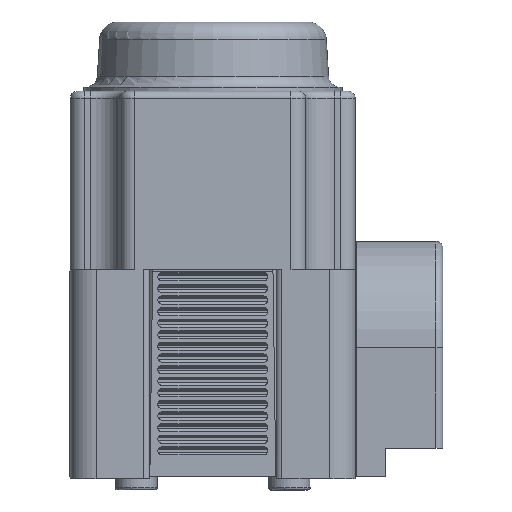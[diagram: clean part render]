
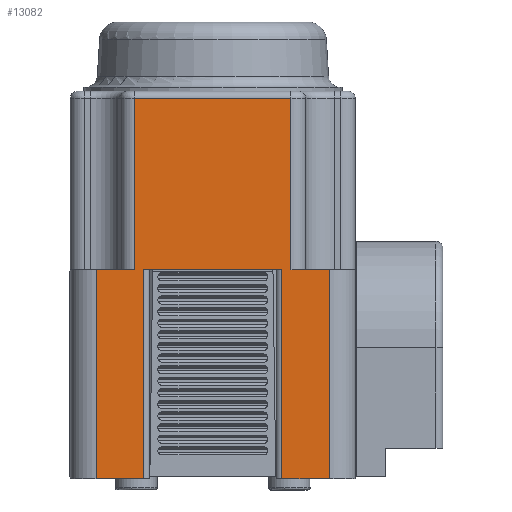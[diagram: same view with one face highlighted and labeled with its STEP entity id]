
A CAD part, left-side view. The second image highlights one B-rep face of the part: STEP entity #13082.
In plain terms, the highlighted planar face has unit normal (-1, 0, 0).
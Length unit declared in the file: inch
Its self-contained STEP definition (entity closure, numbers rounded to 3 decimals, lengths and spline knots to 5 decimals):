
#520=PLANE('',#14547);
#1447=FACE_OUTER_BOUND('',#2239,.T.);
#2239=EDGE_LOOP('',(#11236,#11237,#11238,#11239,#11240,#11241,#11242,#11243,
#11244,#11245,#11246,#11247));
#3691=LINE('',#25581,#4515);
#3704=LINE('',#25651,#4528);
#3820=LINE('',#27224,#4644);
#3837=LINE('',#27282,#4661);
#3838=LINE('',#27286,#4662);
#3841=LINE('',#27305,#4665);
#3854=LINE('',#27381,#4678);
#3855=LINE('',#27385,#4679);
#3856=LINE('',#27386,#4680);
#3857=LINE('',#27388,#4681);
#3858=LINE('',#27390,#4682);
#3859=LINE('',#27391,#4683);
#4515=VECTOR('',#17648,0.3937);
#4528=VECTOR('',#17731,0.3937);
#4644=VECTOR('',#18041,0.3937);
#4661=VECTOR('',#18110,0.3937);
#4662=VECTOR('',#18115,0.3937);
#4665=VECTOR('',#18136,0.3937);
#4678=VECTOR('',#18237,0.3937);
#4679=VECTOR('',#18242,0.3937);
#4680=VECTOR('',#18243,0.3937);
#4681=VECTOR('',#18244,0.3937);
#4682=VECTOR('',#18245,0.3937);
#4683=VECTOR('',#18246,0.3937);
#5692=VERTEX_POINT('',#25573);
#5694=VERTEX_POINT('',#25579);
#5716=VERTEX_POINT('',#25649);
#5846=VERTEX_POINT('',#27221);
#5847=VERTEX_POINT('',#27223);
#5862=VERTEX_POINT('',#27281);
#5863=VERTEX_POINT('',#27285);
#5870=VERTEX_POINT('',#27303);
#5889=VERTEX_POINT('',#27380);
#5890=VERTEX_POINT('',#27384);
#5891=VERTEX_POINT('',#27387);
#5892=VERTEX_POINT('',#27389);
#7390=EDGE_CURVE('',#5694,#5692,#3691,.T.);
#7426=EDGE_CURVE('',#5716,#5694,#3704,.T.);
#7628=EDGE_CURVE('',#5847,#5846,#3820,.T.);
#7657=EDGE_CURVE('',#5862,#5692,#3837,.T.);
#7659=EDGE_CURVE('',#5863,#5862,#3838,.T.);
#7669=EDGE_CURVE('',#5716,#5870,#3841,.T.);
#7707=EDGE_CURVE('',#5889,#5847,#3854,.T.);
#7709=EDGE_CURVE('',#5890,#5870,#3855,.T.);
#7710=EDGE_CURVE('',#5889,#5890,#3856,.T.);
#7711=EDGE_CURVE('',#5891,#5846,#3857,.T.);
#7712=EDGE_CURVE('',#5891,#5892,#3858,.T.);
#7713=EDGE_CURVE('',#5892,#5863,#3859,.T.);
#11236=ORIENTED_EDGE('',*,*,#7390,.F.);
#11237=ORIENTED_EDGE('',*,*,#7426,.F.);
#11238=ORIENTED_EDGE('',*,*,#7669,.T.);
#11239=ORIENTED_EDGE('',*,*,#7709,.F.);
#11240=ORIENTED_EDGE('',*,*,#7710,.F.);
#11241=ORIENTED_EDGE('',*,*,#7707,.T.);
#11242=ORIENTED_EDGE('',*,*,#7628,.T.);
#11243=ORIENTED_EDGE('',*,*,#7711,.F.);
#11244=ORIENTED_EDGE('',*,*,#7712,.T.);
#11245=ORIENTED_EDGE('',*,*,#7713,.T.);
#11246=ORIENTED_EDGE('',*,*,#7659,.T.);
#11247=ORIENTED_EDGE('',*,*,#7657,.T.);
#13082=ADVANCED_FACE('',(#1447),#520,.T.);
#14547=AXIS2_PLACEMENT_3D('',#27383,#18240,#18241);
#17648=DIRECTION('',(0.,-1.,0.));
#17731=DIRECTION('',(0.,0.,1.));
#18041=DIRECTION('',(0.,-1.,0.));
#18110=DIRECTION('',(0.,0.,1.));
#18115=DIRECTION('',(0.,1.,0.));
#18136=DIRECTION('',(0.,1.,0.));
#18237=DIRECTION('',(0.,0.,1.));
#18240=DIRECTION('center_axis',(-1.,0.,0.));
#18241=DIRECTION('ref_axis',(0.,0.,1.));
#18242=DIRECTION('',(0.,0.,1.));
#18243=DIRECTION('',(0.,1.,0.));
#18244=DIRECTION('',(0.,0.,1.));
#18245=DIRECTION('',(0.,-1.,0.));
#18246=DIRECTION('',(0.,0.,1.));
#25573=CARTESIAN_POINT('',(-0.95355,-0.2809,0.6733));
#25579=CARTESIAN_POINT('',(-0.95355,0.3871,0.6733));
#25581=CARTESIAN_POINT('',(-0.95355,0.3871,0.6733));
#25649=CARTESIAN_POINT('',(-0.95355,0.3871,-0.0587));
#25651=CARTESIAN_POINT('',(-0.95355,0.3871,-0.0587));
#27221=CARTESIAN_POINT('',(-0.95355,-0.2409,-0.0587));
#27223=CARTESIAN_POINT('',(-0.95355,0.3471,-0.0587));
#27224=CARTESIAN_POINT('',(-0.95355,0.3471,-0.0587));
#27281=CARTESIAN_POINT('',(-0.95355,-0.2809,-0.0587));
#27282=CARTESIAN_POINT('',(-0.95355,-0.2809,-0.0587));
#27285=CARTESIAN_POINT('',(-0.95355,-0.4459,-0.0587));
#27286=CARTESIAN_POINT('',(-0.95355,-0.4459,-0.0587));
#27303=CARTESIAN_POINT('',(-0.95355,0.5521,-0.0587));
#27305=CARTESIAN_POINT('',(-0.95355,0.3871,-0.0587));
#27380=CARTESIAN_POINT('',(-0.95355,0.3471,-0.9527));
#27381=CARTESIAN_POINT('',(-0.95355,0.3471,-0.9527));
#27383=CARTESIAN_POINT('Origin',(-0.95355,-0.44629,
-0.1397));
#27384=CARTESIAN_POINT('',(-0.95355,0.5521,-0.9527));
#27385=CARTESIAN_POINT('',(-0.95355,0.5521,-0.9527));
#27386=CARTESIAN_POINT('',(-0.95355,0.3471,-0.9527));
#27387=CARTESIAN_POINT('',(-0.95355,-0.2409,-0.9527));
#27388=CARTESIAN_POINT('',(-0.95355,-0.2409,-0.9527));
#27389=CARTESIAN_POINT('',(-0.95355,-0.4459,-0.9527));
#27390=CARTESIAN_POINT('',(-0.95355,-0.2409,-0.9527));
#27391=CARTESIAN_POINT('',(-0.95355,-0.4459,-0.9527));
